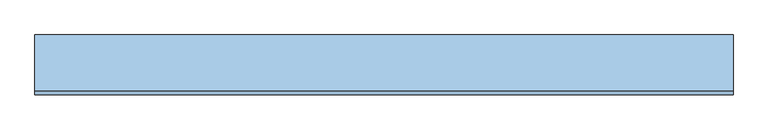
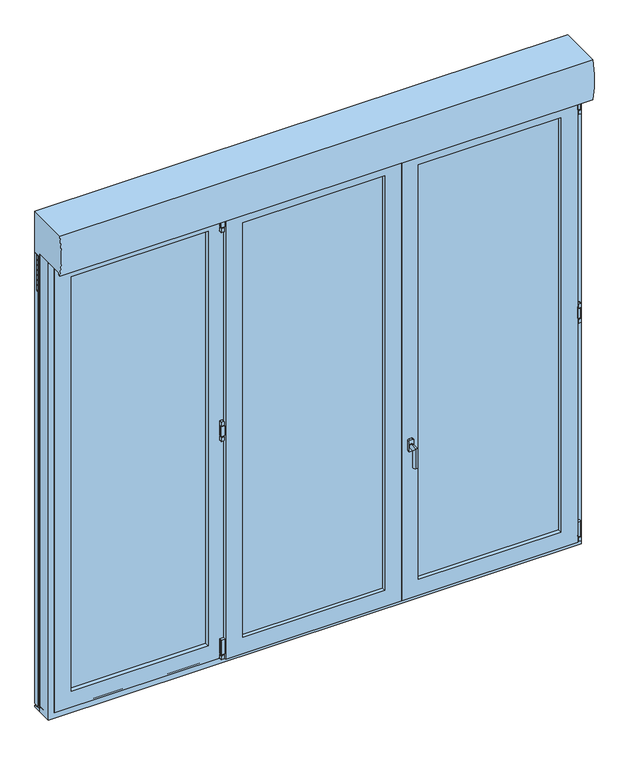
"""IFC4 building model written with IfcOpenShell, lengths in millimetres: window geometry, 24. PF2 + Fixe à G ENR PVC-ALU : PF3 260X236 (LXH) cm + PB."""

from ifc_helpers import new_model, si_unit, point, frame, frame_2d, origin, place, context, project, spatial, polyline, circle_curve, ellipse_curve, trimmed, segment, composite_curve, outline, extrude, faceted_brep, source, transform, mapped, element, save
from ifc_brep_helpers import plane_surface, cylinder_surface, advanced_brep


def window_2f7a2a9f(model_context):
    return source(origin(), model_context, "Body", "SolidModel", [
        extrude(outline(composite_curve([segment(polyline([(1233.7215382, -450.56), (1251.7538628, -450.56)]), True, "CONTINUOUS"), segment(trimmed(circle_curve(frame_2d((1251.7538628, -452.5276754)), 1.9676754), [point((1251.7538628, -450.56))], [point((1253.7215382, -452.5276754))], False, "CARTESIAN"), True, "CONTINUOUS"), segment(polyline([(1253.7215382, -452.5276754), (1253.7215382, -463.5663831)]), True, "CONTINUOUS"), segment(trimmed(circle_curve(frame_2d((1251.7279213, -463.5663831)), 1.9936169), [point((1253.7215382, -463.5663831))], [point((1251.7279213, -465.56))], False, "CARTESIAN"), True, "CONTINUOUS"), segment(polyline([(1251.7279213, -465.56), (1233.7215382, -465.56), (1233.7215382, -450.56)]), True, "CONTINUOUS")], self_intersect=False)), frame((0.0, -115.0338923, 0.0), z_axis=(0.0, 1.0, 0.0), x_axis=(0.0, 0.0, 1.0)), (0.0, 0.0, 1.0), 15.0),
        extrude(outline(composite_curve([segment(trimmed(circle_curve(frame_2d((-458.2805562, -107.5434807)), 5.0), [point((-453.2805562, -107.5434807))], [point((-463.2805562, -107.5434807))], False, "CARTESIAN"), True, "CONTINUOUS"), segment(trimmed(circle_curve(frame_2d((-458.2805562, -107.5434807)), 5.0), [point((-463.2805562, -107.5434807))], [point((-453.2805562, -107.5434807))], False, "CARTESIAN"), True, "CONTINUOUS")], self_intersect=False)), frame((0.0, 0.0, 1173.7215382), z_axis=(0.0, 0.0, 1.0), x_axis=(1.0, 0.0, 0.0)), (0.0, 0.0, 1.0), 60.0),
        extrude(outline(composite_curve([segment(polyline([(-445.56, -100.0434807), (-445.56, -115.0434807), (-463.5418225, -115.0434807)]), True, "CONTINUOUS"), segment(trimmed(circle_curve(frame_2d((-463.5418225, -113.0253033)), 2.0181775), [point((-463.5418225, -115.0434807))], [point((-465.56, -113.0253033))], False, "CARTESIAN"), True, "CONTINUOUS"), segment(polyline([(-465.56, -113.0253033), (-465.56, -102.001657)]), True, "CONTINUOUS"), segment(trimmed(circle_curve(frame_2d((-463.6018237, -102.001657)), 1.9581763), [point((-465.56, -102.001657))], [point((-463.6018237, -100.0434807))], False, "CARTESIAN"), True, "CONTINUOUS"), segment(polyline([(-463.6018237, -100.0434807), (-445.56, -100.0434807)]), True, "CONTINUOUS")], self_intersect=False)), frame((0.0, 0.0, 1179.448), z_axis=(0.0, 0.0, 1.0), x_axis=(1.0, 0.0, 0.0)), (0.0, 0.0, 1.0), 50.0),
        extrude(outline(composite_curve([segment(polyline([(1174.448, -465.7805562), (1156.0982054, -465.7805562)]), True, "CONTINUOUS"), segment(trimmed(circle_curve(frame_2d((1156.4216694, -463.8068867)), 2.0), [point((1156.0982054, -465.7805562))], [point((1154.448, -464.1303507))], False, "CARTESIAN"), True, "CONTINUOUS"), segment(polyline([(1154.448, -464.1303507), (1154.448, -452.7898059)]), True, "CONTINUOUS"), segment(trimmed(circle_curve(frame_2d((1156.4572498, -452.7898059)), 2.0092498), [point((1154.448, -452.7898059))], [point((1156.4572498, -450.7805562))], False, "CARTESIAN"), True, "CONTINUOUS"), segment(polyline([(1156.4572498, -450.7805562), (1174.448, -450.7805562), (1174.448, -465.7805562)]), True, "CONTINUOUS")], self_intersect=False)), frame((0.0, -115.0338923, 0.0), z_axis=(0.0, 1.0, 0.0), x_axis=(0.0, 0.0, 1.0)), (0.0, 0.0, 1.0), 15.0),
        extrude(outline(composite_curve([segment(polyline([(1233.7215382, 1276.56), (1233.7215382, 1291.56), (1251.7279213, 1291.56)]), True, "CONTINUOUS"), segment(trimmed(circle_curve(frame_2d((1251.7279213, 1289.5663831)), 1.9936169), [point((1251.7279213, 1291.56))], [point((1253.7215382, 1289.5663831))], False, "CARTESIAN"), True, "CONTINUOUS"), segment(polyline([(1253.7215382, 1289.5663831), (1253.7215382, 1278.5276754)]), True, "CONTINUOUS"), segment(trimmed(circle_curve(frame_2d((1251.7538628, 1278.5276754)), 1.9676754), [point((1253.7215382, 1278.5276754))], [point((1251.7538628, 1276.56))], False, "CARTESIAN"), True, "CONTINUOUS"), segment(polyline([(1251.7538628, 1276.56), (1233.7215382, 1276.56)]), True, "CONTINUOUS")], self_intersect=False)), frame((0.0, -115.0338923, 0.0), z_axis=(0.0, 1.0, 0.0), x_axis=(0.0, 0.0, 1.0)), (0.0, 0.0, 1.0), 15.0),
        extrude(outline(composite_curve([segment(trimmed(circle_curve(frame_2d((1284.2805562, -107.5434807)), 5.0), [point((1279.2805562, -107.5434807))], [point((1289.2805562, -107.5434807))], False, "CARTESIAN"), True, "CONTINUOUS"), segment(trimmed(circle_curve(frame_2d((1284.2805562, -107.5434807)), 5.0), [point((1289.2805562, -107.5434807))], [point((1279.2805562, -107.5434807))], False, "CARTESIAN"), True, "CONTINUOUS")], self_intersect=False)), frame((0.0, 0.0, 1173.7215382), z_axis=(0.0, 0.0, 1.0), x_axis=(1.0, 0.0, 0.0)), (0.0, 0.0, 1.0), 60.0),
        extrude(outline(composite_curve([segment(polyline([(1271.56, -100.0434807), (1289.6018237, -100.0434807)]), True, "CONTINUOUS"), segment(trimmed(circle_curve(frame_2d((1289.6018237, -102.001657)), 1.9581763), [point((1289.6018237, -100.0434807))], [point((1291.56, -102.001657))], False, "CARTESIAN"), True, "CONTINUOUS"), segment(polyline([(1291.56, -102.001657), (1291.56, -113.0253033)]), True, "CONTINUOUS"), segment(trimmed(circle_curve(frame_2d((1289.5418225, -113.0253033)), 2.0181775), [point((1291.56, -113.0253033))], [point((1289.5418225, -115.0434807))], False, "CARTESIAN"), True, "CONTINUOUS"), segment(polyline([(1289.5418225, -115.0434807), (1271.56, -115.0434807), (1271.56, -100.0434807)]), True, "CONTINUOUS")], self_intersect=False)), frame((0.0, 0.0, 1179.448), z_axis=(0.0, 0.0, 1.0), x_axis=(1.0, 0.0, 0.0)), (0.0, 0.0, 1.0), 50.0),
        extrude(outline(composite_curve([segment(polyline([(1174.448, 1291.7805562), (1174.448, 1276.7805562), (1156.4572498, 1276.7805562)]), True, "CONTINUOUS"), segment(trimmed(circle_curve(frame_2d((1156.4572498, 1278.7898059)), 2.0092498), [point((1156.4572498, 1276.7805562))], [point((1154.448, 1278.7898059))], False, "CARTESIAN"), True, "CONTINUOUS"), segment(polyline([(1154.448, 1278.7898059), (1154.448, 1290.1303507)]), True, "CONTINUOUS"), segment(trimmed(circle_curve(frame_2d((1156.4216694, 1289.8068867)), 2.0), [point((1154.448, 1290.1303507))], [point((1156.0982054, 1291.7805562))], False, "CARTESIAN"), True, "CONTINUOUS"), segment(polyline([(1156.0982054, 1291.7805562), (1174.448, 1291.7805562)]), True, "CONTINUOUS")], self_intersect=False)), frame((0.0, -115.0338923, 0.0), z_axis=(0.0, 1.0, 0.0), x_axis=(0.0, 0.0, 1.0)), (0.0, 0.0, 1.0), 15.0),
        extrude(outline(composite_curve([segment(polyline([(2310.8255382, -450.56), (2328.8578628, -450.56)]), True, "CONTINUOUS"), segment(trimmed(circle_curve(frame_2d((2328.8578628, -452.5276754)), 1.9676754), [point((2328.8578628, -450.56))], [point((2330.8255382, -452.5276754))], False, "CARTESIAN"), True, "CONTINUOUS"), segment(polyline([(2330.8255382, -452.5276754), (2330.8255382, -463.5663831)]), True, "CONTINUOUS"), segment(trimmed(circle_curve(frame_2d((2328.8319213, -463.5663831)), 1.9936169), [point((2330.8255382, -463.5663831))], [point((2328.8319213, -465.56))], False, "CARTESIAN"), True, "CONTINUOUS"), segment(polyline([(2328.8319213, -465.56), (2310.8255382, -465.56), (2310.8255382, -450.56)]), True, "CONTINUOUS")], self_intersect=False)), frame((0.0, -115.0338923, 0.0), z_axis=(0.0, 1.0, 0.0), x_axis=(0.0, 0.0, 1.0)), (0.0, 0.0, 1.0), 15.0),
        extrude(outline(composite_curve([segment(trimmed(circle_curve(frame_2d((-458.2805562, -107.5434807)), 5.0), [point((-453.2805562, -107.5434807))], [point((-463.2805562, -107.5434807))], False, "CARTESIAN"), True, "CONTINUOUS"), segment(trimmed(circle_curve(frame_2d((-458.2805562, -107.5434807)), 5.0), [point((-463.2805562, -107.5434807))], [point((-453.2805562, -107.5434807))], False, "CARTESIAN"), True, "CONTINUOUS")], self_intersect=False)), frame((0.0, 0.0, 2250.8255382), z_axis=(0.0, 0.0, 1.0), x_axis=(1.0, 0.0, 0.0)), (0.0, 0.0, 1.0), 60.0),
        extrude(outline(composite_curve([segment(polyline([(-445.56, -100.0434807), (-445.56, -115.0434807), (-463.5418225, -115.0434807)]), True, "CONTINUOUS"), segment(trimmed(circle_curve(frame_2d((-463.5418225, -113.0253033)), 2.0181775), [point((-463.5418225, -115.0434807))], [point((-465.56, -113.0253033))], False, "CARTESIAN"), True, "CONTINUOUS"), segment(polyline([(-465.56, -113.0253033), (-465.56, -102.001657)]), True, "CONTINUOUS"), segment(trimmed(circle_curve(frame_2d((-463.6018237, -102.001657)), 1.9581763), [point((-465.56, -102.001657))], [point((-463.6018237, -100.0434807))], False, "CARTESIAN"), True, "CONTINUOUS"), segment(polyline([(-463.6018237, -100.0434807), (-445.56, -100.0434807)]), True, "CONTINUOUS")], self_intersect=False)), frame((0.0, 0.0, 2256.552), z_axis=(0.0, 0.0, 1.0), x_axis=(1.0, 0.0, 0.0)), (0.0, 0.0, 1.0), 50.0),
        extrude(outline(composite_curve([segment(polyline([(2251.552, -465.7805562), (2233.2022054, -465.7805562)]), True, "CONTINUOUS"), segment(trimmed(circle_curve(frame_2d((2233.5256694, -463.8068867)), 2.0), [point((2233.2022054, -465.7805562))], [point((2231.552, -464.1303507))], False, "CARTESIAN"), True, "CONTINUOUS"), segment(polyline([(2231.552, -464.1303507), (2231.552, -452.7898059)]), True, "CONTINUOUS"), segment(trimmed(circle_curve(frame_2d((2233.5612498, -452.7898059)), 2.0092498), [point((2231.552, -452.7898059))], [point((2233.5612498, -450.7805562))], False, "CARTESIAN"), True, "CONTINUOUS"), segment(polyline([(2233.5612498, -450.7805562), (2251.552, -450.7805562), (2251.552, -465.7805562)]), True, "CONTINUOUS")], self_intersect=False)), frame((0.0, -115.0338923, 0.0), z_axis=(0.0, 1.0, 0.0), x_axis=(0.0, 0.0, 1.0)), (0.0, 0.0, 1.0), 15.0),
        extrude(outline(composite_curve([segment(trimmed(circle_curve(frame_2d((-458.2805562, -107.5434807)), 5.0), [point((-453.2805562, -107.5434807))], [point((-463.2805562, -107.5434807))], False, "CARTESIAN"), True, "CONTINUOUS"), segment(trimmed(circle_curve(frame_2d((-458.2805562, -107.5434807)), 5.0), [point((-463.2805562, -107.5434807))], [point((-453.2805562, -107.5434807))], False, "CARTESIAN"), True, "CONTINUOUS")], self_intersect=False)), frame((0.0, 0.0, 48.448), z_axis=(0.0, 0.0, 1.0), x_axis=(1.0, 0.0, 0.0)), (0.0, 0.0, 1.0), 5.0),
        extrude(outline(composite_curve([segment(polyline([(48.448, -465.7805562), (30.0982054, -465.7805562)]), True, "CONTINUOUS"), segment(trimmed(circle_curve(frame_2d((30.4216694, -463.8068867)), 2.0), [point((30.0982054, -465.7805562))], [point((28.448, -464.1303507))], False, "CARTESIAN"), True, "CONTINUOUS"), segment(polyline([(28.448, -464.1303507), (28.448, -452.7898059)]), True, "CONTINUOUS"), segment(trimmed(circle_curve(frame_2d((30.4572498, -452.7898059)), 2.0092498), [point((28.448, -452.7898059))], [point((30.4572498, -450.7805562))], False, "CARTESIAN"), True, "CONTINUOUS"), segment(polyline([(30.4572498, -450.7805562), (48.448, -450.7805562), (48.448, -465.7805562)]), True, "CONTINUOUS")], self_intersect=False)), frame((0.0, -115.0338923, 0.0), z_axis=(0.0, 1.0, 0.0), x_axis=(0.0, 0.0, 1.0)), (0.0, 0.0, 1.0), 15.0),
        extrude(outline(composite_curve([segment(polyline([(-445.56, -100.0434807), (-445.56, -115.0434807), (-463.5418225, -115.0434807)]), True, "CONTINUOUS"), segment(trimmed(circle_curve(frame_2d((-463.5418225, -113.0253033)), 2.0181775), [point((-463.5418225, -115.0434807))], [point((-465.56, -113.0253033))], False, "CARTESIAN"), True, "CONTINUOUS"), segment(polyline([(-465.56, -113.0253033), (-465.56, -102.001657)]), True, "CONTINUOUS"), segment(trimmed(circle_curve(frame_2d((-463.6018237, -102.001657)), 1.9581763), [point((-465.56, -102.001657))], [point((-463.6018237, -100.0434807))], False, "CARTESIAN"), True, "CONTINUOUS"), segment(polyline([(-463.6018237, -100.0434807), (-445.56, -100.0434807)]), True, "CONTINUOUS")], self_intersect=False)), frame((0.0, 0.0, 53.448), z_axis=(0.0, 0.0, 1.0), x_axis=(1.0, 0.0, 0.0)), (0.0, 0.0, 1.0), 75.0),
        extrude(outline(composite_curve([segment(polyline([(2310.8255382, 1276.56), (2310.8255382, 1291.56), (2328.8319213, 1291.56)]), True, "CONTINUOUS"), segment(trimmed(circle_curve(frame_2d((2328.8319213, 1289.5663831)), 1.9936169), [point((2328.8319213, 1291.56))], [point((2330.8255382, 1289.5663831))], False, "CARTESIAN"), True, "CONTINUOUS"), segment(polyline([(2330.8255382, 1289.5663831), (2330.8255382, 1278.5276754)]), True, "CONTINUOUS"), segment(trimmed(circle_curve(frame_2d((2328.8578628, 1278.5276754)), 1.9676754), [point((2330.8255382, 1278.5276754))], [point((2328.8578628, 1276.56))], False, "CARTESIAN"), True, "CONTINUOUS"), segment(polyline([(2328.8578628, 1276.56), (2310.8255382, 1276.56)]), True, "CONTINUOUS")], self_intersect=False)), frame((0.0, -115.0338923, 0.0), z_axis=(0.0, 1.0, 0.0), x_axis=(0.0, 0.0, 1.0)), (0.0, 0.0, 1.0), 15.0),
        extrude(outline(composite_curve([segment(trimmed(circle_curve(frame_2d((1284.2805562, -107.5434807)), 5.0), [point((1279.2805562, -107.5434807))], [point((1289.2805562, -107.5434807))], False, "CARTESIAN"), True, "CONTINUOUS"), segment(trimmed(circle_curve(frame_2d((1284.2805562, -107.5434807)), 5.0), [point((1289.2805562, -107.5434807))], [point((1279.2805562, -107.5434807))], False, "CARTESIAN"), True, "CONTINUOUS")], self_intersect=False)), frame((0.0, 0.0, 2250.8255382), z_axis=(0.0, 0.0, 1.0), x_axis=(1.0, 0.0, 0.0)), (0.0, 0.0, 1.0), 60.0),
        extrude(outline(composite_curve([segment(polyline([(1271.56, -100.0434807), (1289.6018237, -100.0434807)]), True, "CONTINUOUS"), segment(trimmed(circle_curve(frame_2d((1289.6018237, -102.001657)), 1.9581763), [point((1289.6018237, -100.0434807))], [point((1291.56, -102.001657))], False, "CARTESIAN"), True, "CONTINUOUS"), segment(polyline([(1291.56, -102.001657), (1291.56, -113.0253033)]), True, "CONTINUOUS"), segment(trimmed(circle_curve(frame_2d((1289.5418225, -113.0253033)), 2.0181775), [point((1291.56, -113.0253033))], [point((1289.5418225, -115.0434807))], False, "CARTESIAN"), True, "CONTINUOUS"), segment(polyline([(1289.5418225, -115.0434807), (1271.56, -115.0434807), (1271.56, -100.0434807)]), True, "CONTINUOUS")], self_intersect=False)), frame((0.0, 0.0, 2256.552), z_axis=(0.0, 0.0, 1.0), x_axis=(1.0, 0.0, 0.0)), (0.0, 0.0, 1.0), 50.0),
        extrude(outline(composite_curve([segment(polyline([(2251.552, 1291.7805562), (2251.552, 1276.7805562), (2233.5612498, 1276.7805562)]), True, "CONTINUOUS"), segment(trimmed(circle_curve(frame_2d((2233.5612498, 1278.7898059)), 2.0092498), [point((2233.5612498, 1276.7805562))], [point((2231.552, 1278.7898059))], False, "CARTESIAN"), True, "CONTINUOUS"), segment(polyline([(2231.552, 1278.7898059), (2231.552, 1290.1303507)]), True, "CONTINUOUS"), segment(trimmed(circle_curve(frame_2d((2233.5256694, 1289.8068867)), 2.0), [point((2231.552, 1290.1303507))], [point((2233.2022054, 1291.7805562))], False, "CARTESIAN"), True, "CONTINUOUS"), segment(polyline([(2233.2022054, 1291.7805562), (2251.552, 1291.7805562)]), True, "CONTINUOUS")], self_intersect=False)), frame((0.0, -115.0338923, 0.0), z_axis=(0.0, 1.0, 0.0), x_axis=(0.0, 0.0, 1.0)), (0.0, 0.0, 1.0), 15.0),
        extrude(outline(composite_curve([segment(trimmed(circle_curve(frame_2d((1284.2805562, -107.5434807)), 5.0), [point((1279.2805562, -107.5434807))], [point((1289.2805562, -107.5434807))], False, "CARTESIAN"), True, "CONTINUOUS"), segment(trimmed(circle_curve(frame_2d((1284.2805562, -107.5434807)), 5.0), [point((1289.2805562, -107.5434807))], [point((1279.2805562, -107.5434807))], False, "CARTESIAN"), True, "CONTINUOUS")], self_intersect=False)), frame((0.0, 0.0, 48.448), z_axis=(0.0, 0.0, 1.0), x_axis=(1.0, 0.0, 0.0)), (0.0, 0.0, 1.0), 5.0),
        extrude(outline(composite_curve([segment(polyline([(48.448, 1291.7805562), (48.448, 1276.7805562), (30.4572498, 1276.7805562)]), True, "CONTINUOUS"), segment(trimmed(circle_curve(frame_2d((30.4572498, 1278.7898059)), 2.0092498), [point((30.4572498, 1276.7805562))], [point((28.448, 1278.7898059))], False, "CARTESIAN"), True, "CONTINUOUS"), segment(polyline([(28.448, 1278.7898059), (28.448, 1290.1303507)]), True, "CONTINUOUS"), segment(trimmed(circle_curve(frame_2d((30.4216694, 1289.8068867)), 2.0), [point((28.448, 1290.1303507))], [point((30.0982054, 1291.7805562))], False, "CARTESIAN"), True, "CONTINUOUS"), segment(polyline([(30.0982054, 1291.7805562), (48.448, 1291.7805562)]), True, "CONTINUOUS")], self_intersect=False)), frame((0.0, -115.0338923, 0.0), z_axis=(0.0, 1.0, 0.0), x_axis=(0.0, 0.0, 1.0)), (0.0, 0.0, 1.0), 15.0),
        extrude(outline(composite_curve([segment(polyline([(1271.56, -100.0434807), (1289.6018237, -100.0434807)]), True, "CONTINUOUS"), segment(trimmed(circle_curve(frame_2d((1289.6018237, -102.001657)), 1.9581763), [point((1289.6018237, -100.0434807))], [point((1291.56, -102.001657))], False, "CARTESIAN"), True, "CONTINUOUS"), segment(polyline([(1291.56, -102.001657), (1291.56, -113.0253033)]), True, "CONTINUOUS"), segment(trimmed(circle_curve(frame_2d((1289.5418225, -113.0253033)), 2.0181775), [point((1291.56, -113.0253033))], [point((1289.5418225, -115.0434807))], False, "CARTESIAN"), True, "CONTINUOUS"), segment(polyline([(1289.5418225, -115.0434807), (1271.56, -115.0434807), (1271.56, -100.0434807)]), True, "CONTINUOUS")], self_intersect=False)), frame((0.0, 0.0, 53.448), z_axis=(0.0, 0.0, 1.0), x_axis=(1.0, 0.0, 0.0)), (0.0, 0.0, 1.0), 75.0),
        advanced_brep(
        [(461.5, -129.3239543, 851.448), (446.5, -129.3239543, 851.448), (441.5, -129.3239543, 846.448), (441.5, -129.3239543, 796.448), (446.5, -129.3239543, 791.448), (461.5, -129.3239543, 791.448), (466.5, -129.3239543, 796.448), (466.5, -129.3239543, 846.448), (454.2771873, -129.3239543, 829.2518349), (454.2771873, -129.3239543, 809.2518349), (461.5, -117.4674689, 851.448), (466.5, -117.4674689, 846.448), (466.5, -117.4674689, 796.448), (461.5, -117.4674689, 791.448), (446.5, -117.4674689, 791.448), (441.5, -117.4674689, 796.448), (441.5, -117.4674689, 846.448), (446.5, -117.4674689, 851.448), (454.2771873, -133.0531938, 809.2518349), (454.2771873, -133.0531938, 829.2518349), (454.2771873, -173.0531938, 829.2518349), (454.2771873, -153.0531938, 809.2518349), (454.2771873, -173.0531938, 729.2518349), (454.2771873, -153.0531938, 729.2518349)],
        [
            (0, 1),
            (1, 2, circle_curve(frame((446.5, -129.3239543, 846.448), z_axis=(0.0, -1.0, 0.0), x_axis=(-1.0, 0.0, 0.0)), 5.0)),
            (2, 3),
            (3, 4, circle_curve(frame((446.5, -129.3239543, 796.448), z_axis=(0.0, -1.0, 0.0), x_axis=(-1.0, 0.0, 0.0)), 5.0)),
            (4, 5),
            (5, 6, circle_curve(frame((461.5, -129.3239543, 796.448), z_axis=(0.0, -1.0, 0.0), x_axis=(-1.0, 0.0, 0.0)), 5.0)),
            (6, 7),
            (7, 0, circle_curve(frame((461.5, -129.3239543, 846.448), z_axis=(0.0, -1.0, 0.0), x_axis=(-1.0, 0.0, 0.0)), 5.0)),
            (8, 9, circle_curve(frame((454.2771873, -129.3239543, 819.2518349), z_axis=(0.0, 1.0, 0.0), x_axis=(0.0, 0.0, -1.0)), 10.0)),
            (9, 8, circle_curve(frame((454.2771873, -129.3239543, 819.2518349), z_axis=(0.0, 1.0, 0.0), x_axis=(0.0, 0.0, -1.0)), 10.0)),
            (10, 11, circle_curve(frame((461.5, -117.4674689, 846.448), z_axis=(0.0, 1.0, 0.0), x_axis=(-1.0, 0.0, 0.0)), 5.0)),
            (11, 12),
            (12, 13, circle_curve(frame((461.5, -117.4674689, 796.448), z_axis=(0.0, 1.0, 0.0), x_axis=(-1.0, 0.0, 0.0)), 5.0)),
            (13, 14),
            (14, 15, circle_curve(frame((446.5, -117.4674689, 796.448), z_axis=(0.0, 1.0, 0.0), x_axis=(-1.0, 0.0, 0.0)), 5.0)),
            (15, 16),
            (16, 17, circle_curve(frame((446.5, -117.4674689, 846.448), z_axis=(0.0, 1.0, 0.0), x_axis=(-1.0, 0.0, 0.0)), 5.0)),
            (17, 10),
            (7, 11),
            (10, 0),
            (6, 12),
            (5, 13),
            (4, 14),
            (3, 15),
            (2, 16),
            (1, 17),
            (18, 19, circle_curve(frame((454.2771873, -133.0531938, 819.2518349), z_axis=(0.0, -1.0, 0.0), x_axis=(0.0, 0.0, -1.0)), 10.0)),
            (19, 20),
            (20, 21, ellipse_curve(frame((454.2771873, -163.0531938, 819.2518349), z_axis=(0.0, 0.7071067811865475, 0.7071067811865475), x_axis=(0.0, 0.7071067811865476, -0.7071067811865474)), 14.1421356, 10.0)),
            (21, 18),
            (19, 18, circle_curve(frame((454.2771873, -133.0531938, 819.2518349), z_axis=(0.0, -1.0, 0.0), x_axis=(0.0, 0.0, -1.0)), 10.0)),
            (21, 20, ellipse_curve(frame((454.2771873, -163.0531938, 819.2518349), z_axis=(0.0, 0.7071067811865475, 0.7071067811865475), x_axis=(0.0, 0.7071067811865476, -0.7071067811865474)), 14.1421356, 10.0)),
            (22, 23, circle_curve(frame((454.2771873, -163.0531938, 729.2518349), z_axis=(0.0, 0.0, -1.0), x_axis=(0.0, 1.0, 0.0)), 10.0)),
            (23, 22, circle_curve(frame((454.2771873, -163.0531938, 729.2518349), z_axis=(0.0, 0.0, -1.0), x_axis=(0.0, 1.0, 0.0)), 10.0)),
            (20, 22),
            (23, 21),
            (18, 9),
            (8, 19),
        ],
        [
            plane_surface(frame((456.5, -129.3239543, 846.448), z_axis=(0.0, -1.0, 0.0), x_axis=(0.0, 0.0, -1.0))),
            plane_surface(frame((456.5, -117.4674689, 846.448), z_axis=(0.0, 1.0, 0.0), x_axis=(0.0, 0.0, 1.0))),
            cylinder_surface(frame((461.5, -129.3239543, 846.448), z_axis=(0.0, 1.0, 0.0), x_axis=(-1.0, 0.0, 0.0)), 5.0),
            plane_surface(frame((466.5, -117.4674689, 846.448), z_axis=(1.0, 0.0, 0.0), x_axis=(0.0, -1.0, 0.0))),
            cylinder_surface(frame((461.5, -129.3239543, 796.448), z_axis=(0.0, 1.0, 0.0), x_axis=(-1.0, 0.0, 0.0)), 5.0),
            plane_surface(frame((461.5, -117.4674689, 791.448), z_axis=(0.0, 0.0, -1.0), x_axis=(0.0, -1.0, 0.0))),
            cylinder_surface(frame((446.5, -129.3239543, 796.448), z_axis=(0.0, 1.0, 0.0), x_axis=(-1.0, 0.0, 0.0)), 5.0),
            plane_surface(frame((441.5, -117.4674689, 796.448), z_axis=(-1.0, 0.0, 0.0), x_axis=(0.0, -1.0, 0.0))),
            cylinder_surface(frame((446.5, -129.3239543, 846.448), z_axis=(0.0, 1.0, 0.0), x_axis=(-1.0, 0.0, 0.0)), 5.0),
            plane_surface(frame((446.5, -117.4674689, 851.448), z_axis=(0.0, 0.0, 1.0), x_axis=(0.0, -1.0, 0.0))),
            cylinder_surface(frame((454.2771873, -133.0531938, 819.2518349), z_axis=(0.0, 1.0, 0.0), x_axis=(0.0, 0.0, -1.0)), 10.0),
            plane_surface(frame((466.5, -163.0531938, 729.2518349), z_axis=(0.0, 0.0, -1.0), x_axis=(1.0, 0.0, 0.0))),
            cylinder_surface(frame((454.2771873, -163.0531938, 819.2518349), z_axis=(0.0, 0.0, 1.0), x_axis=(0.0, 1.0, 0.0)), 10.0),
            cylinder_surface(frame((454.2771873, -129.3239543, 819.2518349), z_axis=(0.0, 1.0, 0.0), x_axis=(0.0, 0.0, -1.0)), 10.0),
        ],
        [
            (0, [[1, 2, 3, 4, 5, 6, 7, 8], [9, 10]]),
            (1, [[11, 12, 13, 14, 15, 16, 17, 18]]),
            (2, [[-8, 19, -11, 20]]),
            (3, [[-7, 21, -12, -19]]),
            (4, [[-6, 22, -13, -21]]),
            (5, [[-5, 23, -14, -22]]),
            (6, [[-4, 24, -15, -23]]),
            (7, [[-3, 25, -16, -24]]),
            (8, [[-2, 26, -17, -25]]),
            (9, [[-1, -20, -18, -26]]),
            (10, [[27, 28, 29, 30]]),
            (10, [[-28, 31, -30, 32]]),
            (11, [[33, 34]]),
            (12, [[-29, 35, -34, 36]]),
            (12, [[-32, -36, -33, -35]]),
            (13, [[-27, 37, -9, 38]]),
            (13, [[-31, -38, -10, -37]]),
        ],
    ),
        faceted_brep([(-1300.0, -100.02, 2360.0), (-1300.0, -28.9, 2360.0), (-1300.0, -28.9, 0.0), (-1300.0, -100.02, 0.0), (1300.0, -28.9, 2360.0), (1300.0, -28.9, 0.0), (-1242.0983858, -28.9, 57.9016142), (1242.0983858, -28.9, 57.9016142), (1242.0983858, -28.9, 2302.0983858), (-1242.0983858, -28.9, 2302.0983858), (1300.0, -100.02, 0.0), (1300.0, -100.02, 2360.0), (-1263.424, -100.02, 2323.424), (1263.424, -100.02, 2323.424), (1263.424, -100.02, 36.576), (-1263.424, -100.02, 36.576), (-1263.424, -44.648, 2323.424), (-1263.424, -44.648, 36.576), (1263.424, -44.648, 36.576), (1263.424, -44.648, 2323.424), (-1242.0983858, -44.648, 2302.0983858), (1242.0983858, -44.648, 2302.0983858), (1242.0983858, -44.648, 57.9016142), (-1242.0983858, -44.648, 57.9016142)], [[[0, 1, 2, 3]], [[1, 4, 5, 2], [6, 7, 8, 9]], [[3, 2, 5, 10]], [[3, 10, 11, 0], [12, 13, 14, 15]], [[16, 12, 15, 17]], [[17, 15, 14, 18]], [[17, 18, 19, 16], [20, 21, 22, 23]], [[9, 20, 23, 6]], [[6, 23, 22, 7]], [[10, 5, 4, 11]], [[18, 14, 13, 19]], [[7, 22, 21, 8]], [[11, 4, 1, 0]], [[19, 13, 12, 16]], [[8, 21, 20, 9]]]),
        extrude(outline(polyline([(392.68, -100.0434807), (392.68, -44.648), (377.9954701, -44.648), (377.9954701, -28.7475756), (447.9965299, -28.7475756), (447.9965299, -44.648), (433.32, -44.648), (433.32, -100.0434807), (392.68, -100.0434807)])), frame((0.0, 0.0, 57.9016142), z_axis=(0.0, 0.0, 1.0), x_axis=(1.0, 0.0, 0.0)), (0.0, 0.0, 1.0), 2244.1),
        extrude(outline(polyline([(-410.5594701, -28.9), (-410.5594701, -44.648), (-425.24, -44.648), (-425.24, -100.0), (-437.432, -100.0), (-437.432, -44.648), (-466.8856142, -44.648), (-466.8856142, -28.9), (-410.5594701, -28.9)])), frame((0.0, 0.0, 57.9016142), z_axis=(0.0, 0.0, 1.0), x_axis=(1.0, 0.0, 0.0)), (0.0, 0.0, 1.0), 2244.1),
        faceted_brep([(-466.8856142, -28.9, 2302.0983858), (-466.8856142, -44.648, 2302.0983858), (-466.8856142, -44.648, 57.9016142), (-466.8856142, -28.9, 57.9016142), (-437.432, -44.648, 28.448), (-1271.56, -44.648, 28.448), (-1271.56, -44.648, 2331.552), (-437.432, -44.648, 2331.552), (-1242.1063858, -44.648, 2302.0983858), (-1242.1063858, -44.648, 57.9016142), (-1242.1063858, -28.9, 57.9016142), (-1242.1063858, -28.9, 2302.0983858), (-519.4599508, -28.9, 2249.5240492), (-1189.5320492, -28.9, 2249.5240492), (-1189.5320492, -28.9, 110.4759508), (-519.4599508, -28.9, 110.4759508), (-1189.5320492, -50.2048765, 110.4759508), (-1189.5320492, -50.2048765, 2249.5240492), (-519.4599508, -50.2048765, 110.4759508), (-519.4599508, -50.2048765, 2249.5240492), (-437.432, -100.963906, 28.448), (-1271.56, -100.963906, 28.448), (-1271.56, -100.963906, 2331.552), (-437.432, -100.963906, 2331.552), (-519.4599508, -100.963906, 110.4759508), (-1189.5320492, -100.963906, 110.4759508), (-1189.5320492, -100.963906, 2249.5240492), (-519.4599508, -100.963906, 2249.5240492), (-519.4599508, -78.213906, 110.4759508), (-1189.5320492, -78.213906, 110.4759508), (-1189.5320492, -78.213906, 2249.5240492), (-519.4599508, -78.213906, 2249.5240492), (-505.5664883, -50.2048765, 2263.4175117), (-1203.4255117, -50.2048765, 2263.4175117), (-1203.4255117, -50.2048765, 96.5824883), (-505.5664883, -50.2048765, 96.5824883), (-505.5664883, -54.213906, 2263.4175117), (-505.5664883, -54.213906, 96.5824883), (-1203.4255117, -54.213906, 96.5824883), (-1203.4255117, -54.213906, 2263.4175117), (-519.4599508, -54.213906, 2249.5240492), (-1189.5320492, -54.213906, 2249.5240492), (-1189.5320492, -54.213906, 110.4759508), (-519.4599508, -54.213906, 110.4759508), (-505.5664883, -78.213906, 2263.4175117), (-505.5664883, -74.213906, 2263.4175117), (-505.5664883, -74.213906, 96.5824883), (-505.5664883, -78.213906, 96.5824883), (-1203.4255117, -74.213906, 2263.4175117), (-1203.4255117, -74.213906, 96.5824883), (-519.4599508, -74.213906, 110.4759508), (-1189.5320492, -74.213906, 110.4759508), (-1189.5320492, -74.213906, 2249.5240492), (-519.4599508, -74.213906, 2249.5240492), (-1203.4255117, -78.213906, 96.5824883), (-1203.4255117, -78.213906, 2263.4175117)], [[[0, 1, 2, 3]], [[4, 5, 6, 7], [1, 8, 9, 2]], [[3, 2, 9, 10]], [[3, 10, 11, 0], [12, 13, 14, 15]], [[10, 9, 8, 11]], [[16, 14, 13, 17]], [[18, 15, 14, 16]], [[19, 12, 15, 18]], [[4, 20, 21, 5]], [[5, 21, 22, 6]], [[23, 20, 4, 7]], [[23, 22, 21, 20], [24, 25, 26, 27]], [[24, 28, 29, 25]], [[25, 29, 30, 26]], [[27, 31, 28, 24]], [[32, 33, 34, 35], [18, 16, 17, 19]], [[36, 32, 35, 37]], [[37, 35, 34, 38]], [[37, 38, 39, 36], [40, 41, 42, 43]], [[44, 45, 46, 47]], [[45, 48, 49, 46], [50, 51, 52, 53]], [[47, 46, 49, 54]], [[47, 54, 55, 44], [31, 30, 29, 28]], [[38, 34, 33, 39]], [[54, 49, 48, 55]], [[51, 42, 41, 52]], [[50, 43, 42, 51]], [[53, 40, 43, 50]], [[11, 8, 1, 0]], [[6, 22, 23, 7]], [[17, 13, 12, 19]], [[39, 33, 32, 36]], [[55, 48, 45, 44]], [[52, 41, 40, 53]], [[26, 30, 31, 27]]]),
        faceted_brep([(413.0, -100.0434807, 28.448), (413.0, -119.3239543, 28.448), (-445.56, -119.3239543, 28.448), (-445.56, -100.0434807, 28.448), (-445.56, -119.3239543, 2331.552), (-445.56, -100.0434807, 2331.552), (413.0, -119.3239543, 2331.552), (-363.3585043, -119.3239543, 2249.3505043), (330.7985043, -119.3239543, 2249.3505043), (330.7985043, -119.3239543, 110.6494957), (-363.3585043, -119.3239543, 110.6494957), (413.0, -100.0434807, 2331.552), (-425.24, -100.0434807, 48.768), (392.68, -100.0434807, 48.768), (392.68, -100.0434807, 2311.232), (-425.24, -100.0434807, 2311.232), (330.7985043, -100.019954, 110.6494957), (-363.3585043, -100.019954, 110.6494957), (-363.3585043, -100.019954, 2249.3505043), (-385.6166701, -100.019954, 2271.6086701), (353.0566701, -100.019954, 2271.6086701), (353.0566701, -100.019954, 88.3913299), (-385.6166701, -100.019954, 88.3913299), (330.7985043, -100.019954, 2249.3505043), (353.0566701, -48.2039543, 88.3913299), (-385.6166701, -48.2039543, 88.3913299), (-385.6166701, -48.2039543, 2271.6086701), (-416.1063858, -48.2039543, 2302.0983858), (383.5463858, -48.2039543, 2302.0983858), (383.5463858, -48.2039543, 57.9016142), (-416.1063858, -48.2039543, 57.9016142), (353.0566701, -48.2039543, 2271.6086701), (383.5463858, -44.648, 57.9016142), (-416.1063858, -44.648, 57.9016142), (-416.1063858, -44.648, 2302.0983858), (-425.24, -44.648, 2311.232), (392.68, -44.648, 2311.232), (392.68, -44.648, 48.768), (-425.24, -44.648, 48.768), (383.5463858, -44.648, 2302.0983858)], [[[0, 1, 2, 3]], [[3, 2, 4, 5]], [[2, 1, 6, 4], [7, 8, 9, 10]], [[5, 11, 0, 3], [12, 13, 14, 15]], [[9, 16, 17, 10]], [[10, 17, 18, 7]], [[19, 20, 21, 22], [17, 16, 23, 18]], [[21, 24, 25, 22]], [[22, 25, 26, 19]], [[27, 28, 29, 30], [25, 24, 31, 26]], [[29, 32, 33, 30]], [[30, 33, 34, 27]], [[35, 36, 37, 38], [33, 32, 39, 34]], [[37, 13, 12, 38]], [[38, 12, 15, 35]], [[11, 6, 1, 0]], [[8, 23, 16, 9]], [[20, 31, 24, 21]], [[28, 39, 32, 29]], [[36, 14, 13, 37]], [[5, 4, 6, 11]], [[27, 34, 39, 28]], [[35, 15, 14, 36]], [[7, 18, 23, 8]], [[19, 26, 31, 20]]]),
        faceted_brep([(413.0, -119.3239543, 28.448), (413.0, -100.0434807, 28.448), (1271.56, -100.0434807, 28.448), (1271.56, -119.3239543, 28.448), (1271.56, -100.0434807, 2331.552), (1271.56, -119.3239543, 2331.552), (413.0, -100.0434807, 2331.552), (1251.24, -100.0434807, 2311.232), (433.32, -100.0434807, 2311.232), (433.32, -100.0434807, 48.768), (1251.24, -100.0434807, 48.768), (413.0, -119.3239543, 2331.552), (1189.3585043, -119.3239543, 110.6494957), (495.2014957, -119.3239543, 110.6494957), (495.2014957, -119.3239543, 2249.3505043), (1189.3585043, -119.3239543, 2249.3505043), (495.2014957, -100.019954, 110.6494957), (1189.3585043, -100.019954, 110.6494957), (1189.3585043, -100.019954, 2249.3505043), (1211.6166701, -100.019954, 88.3913299), (472.9433299, -100.019954, 88.3913299), (472.9433299, -100.019954, 2271.6086701), (1211.6166701, -100.019954, 2271.6086701), (495.2014957, -100.019954, 2249.3505043), (472.9433299, -48.2039543, 88.3913299), (1211.6166701, -48.2039543, 88.3913299), (1211.6166701, -48.2039543, 2271.6086701), (1242.1063858, -48.2039543, 57.9016142), (442.4536142, -48.2039543, 57.9016142), (442.4536142, -48.2039543, 2302.0983858), (1242.1063858, -48.2039543, 2302.0983858), (472.9433299, -48.2039543, 2271.6086701), (442.4536142, -44.648, 57.9016142), (1242.1063858, -44.648, 57.9016142), (1242.1063858, -44.648, 2302.0983858), (1251.24, -44.648, 48.768), (433.32, -44.648, 48.768), (433.32, -44.648, 2311.232), (1251.24, -44.648, 2311.232), (442.4536142, -44.648, 2302.0983858)], [[[0, 1, 2, 3]], [[3, 2, 4, 5]], [[2, 1, 6, 4], [7, 8, 9, 10]], [[5, 11, 0, 3], [12, 13, 14, 15]], [[16, 13, 12, 17]], [[17, 12, 15, 18]], [[19, 20, 21, 22], [18, 23, 16, 17]], [[24, 20, 19, 25]], [[25, 19, 22, 26]], [[27, 28, 29, 30], [26, 31, 24, 25]], [[32, 28, 27, 33]], [[33, 27, 30, 34]], [[35, 36, 37, 38], [34, 39, 32, 33]], [[9, 36, 35, 10]], [[10, 35, 38, 7]], [[11, 6, 1, 0]], [[23, 14, 13, 16]], [[31, 21, 20, 24]], [[39, 29, 28, 32]], [[8, 37, 36, 9]], [[5, 4, 6, 11]], [[34, 30, 29, 39]], [[7, 38, 37, 8]], [[18, 15, 14, 23]], [[26, 22, 21, 31]]]),
        extrude(outline(polyline([(-377.4, -100.019954), (-377.4, -96.019954), (344.9, -96.019954), (344.9, -100.019954), (-377.4, -100.019954)])), frame((0.0, 0.0, 96.5824883), z_axis=(0.0, 0.0, 1.0), x_axis=(1.0, 0.0, 0.0)), (0.0, 0.0, 1.0), 2166.8350233),
        extrude(outline(polyline([(-377.4, -72.9786213), (-377.4, -68.9786213), (344.9, -68.9786213), (344.9, -72.9786213), (-377.4, -72.9786213)])), frame((0.0, 0.0, 96.5824883), z_axis=(0.0, 0.0, 1.0), x_axis=(1.0, 0.0, 0.0)), (0.0, 0.0, 1.0), 2166.8350233),
        extrude(outline(polyline([(-377.4, -45.9821328), (-377.4, -42.025765), (344.9, -42.025765), (344.9, -45.9821328), (-377.4, -45.9821328)])), frame((0.0, 0.0, 96.5824883), z_axis=(0.0, 0.0, 1.0), x_axis=(1.0, 0.0, 0.0)), (0.0, 0.0, 1.0), 2166.8350233),
        faceted_brep([(-385.6086701, -100.019954, 2271.6086701), (-385.6086701, -48.2039543, 2271.6086701), (-385.6086701, -48.2039543, 88.3913299), (-385.6086701, -100.019954, 88.3913299), (-410.5514701, -48.2039543, 2296.5514701), (-410.5514701, -48.2039543, 63.4485299), (378.0034701, -48.2039543, 63.4485299), (378.0034701, -48.2039543, 2296.5514701), (353.0606701, -48.2039543, 2271.6086701), (353.0606701, -48.2039543, 88.3913299), (353.0606701, -100.019954, 88.3913299), (353.0606701, -100.019954, 2271.6086701), (344.8695117, -100.019954, 2263.4175117), (344.8695117, -100.019954, 96.5824883), (-377.4175117, -100.019954, 96.5824883), (-377.4175117, -100.019954, 2263.4175117), (-410.5514701, -28.7475756, 2296.5514701), (-410.5514701, -28.7475756, 63.4485299), (378.0034701, -28.7475756, 2296.5514701), (378.0034701, -28.7475756, 63.4485299), (-359.3393386, -28.7475756, 2245.3393386), (-359.3393386, -28.7475756, 114.6606614), (326.7913386, -28.7475756, 114.6606614), (326.7913386, -28.7475756, 2245.3393386), (-359.3393386, -41.5821328, 2245.3393386), (-359.3393386, -41.5821328, 114.6606614), (-377.4175117, -41.5821328, 2263.4175117), (-377.4175117, -41.5821328, 96.5824883), (344.8695117, -41.5821328, 96.5824883), (344.8695117, -41.5821328, 2263.4175117), (326.7913386, -41.5821328, 2245.3393386), (326.7913386, -41.5821328, 114.6606614), (-360.1974041, -47.5821328, 2246.1974041), (-360.1974041, -68.9786213, 2246.1974041), (-360.1974041, -68.9786213, 113.8025959), (-360.1974041, -47.5821328, 113.8025959), (-377.4175117, -68.9786213, 2263.4175117), (-377.4175117, -68.9786213, 96.5824883), (344.8695117, -68.9786213, 96.5824883), (344.8695117, -68.9786213, 2263.4175117), (327.6494041, -68.9786213, 2246.1974041), (327.6494041, -68.9786213, 113.8025959), (327.6494041, -47.5821328, 113.8025959), (344.8695117, -47.5821328, 2263.4175117), (344.8695117, -47.5821328, 96.5824883), (-377.4175117, -47.5821328, 96.5824883), (-377.4175117, -47.5821328, 2263.4175117), (327.6494041, -47.5821328, 2246.1974041), (-363.5240492, -72.9786213, 2249.5240492), (-363.5240492, -96.019954, 2249.5240492), (-363.5240492, -96.019954, 110.4759508), (-363.5240492, -72.9786213, 110.4759508), (-377.4175117, -96.019954, 2263.4175117), (-377.4175117, -96.019954, 96.5824883), (344.8695117, -96.019954, 96.5824883), (344.8695117, -96.019954, 2263.4175117), (330.9760492, -96.019954, 2249.5240492), (330.9760492, -96.019954, 110.4759508), (330.9760492, -72.9786213, 110.4759508), (344.8695117, -72.9786213, 2263.4175117), (344.8695117, -72.9786213, 96.5824883), (-377.4175117, -72.9786213, 96.5824883), (-377.4175117, -72.9786213, 2263.4175117), (330.9760492, -72.9786213, 2249.5240492)], [[[0, 1, 2, 3]], [[4, 5, 6, 7], [8, 9, 2, 1]], [[3, 2, 9, 10]], [[0, 3, 10, 11], [12, 13, 14, 15]], [[4, 16, 17, 5]], [[18, 19, 17, 16], [20, 21, 22, 23]], [[5, 17, 19, 6]], [[20, 24, 25, 21]], [[26, 27, 28, 29], [30, 31, 25, 24]], [[21, 25, 31, 22]], [[32, 33, 34, 35]], [[36, 37, 38, 39], [40, 41, 34, 33]], [[35, 34, 41, 42]], [[43, 44, 45, 46], [32, 35, 42, 47]], [[48, 49, 50, 51]], [[52, 53, 54, 55], [56, 57, 50, 49]], [[51, 50, 57, 58]], [[59, 60, 61, 62], [48, 51, 58, 63]], [[52, 15, 14, 53]], [[53, 14, 13, 54]], [[26, 46, 45, 27]], [[27, 45, 44, 28]], [[36, 62, 61, 37]], [[37, 61, 60, 38]], [[58, 57, 56, 63]], [[54, 13, 12, 55]], [[10, 9, 8, 11]], [[6, 19, 18, 7]], [[22, 31, 30, 23]], [[28, 44, 43, 29]], [[42, 41, 40, 47]], [[38, 60, 59, 39]], [[11, 8, 1, 0]], [[7, 18, 16, 4]], [[23, 30, 24, 20]], [[47, 40, 33, 32]], [[63, 56, 49, 48]], [[55, 12, 15, 52]], [[29, 43, 46, 26]], [[39, 59, 62, 36]]]),
        extrude(outline(polyline([(-1203.4, -54.213906), (-1203.4, -50.2048765), (-505.5, -50.2048765), (-505.5, -54.213906), (-1203.4, -54.213906)])), frame((0.0, 0.0, 96.5824883), z_axis=(0.0, 0.0, 1.0), x_axis=(1.0, 0.0, 0.0)), (0.0, 0.0, 1.0), 2166.8350233),
        extrude(outline(polyline([(-1203.4, -78.2229356), (-1203.4, -74.213906), (-505.5, -74.213906), (-505.5, -78.2229356), (-1203.4, -78.2229356)])), frame((0.0, 0.0, 96.5824883), z_axis=(0.0, 0.0, 1.0), x_axis=(1.0, 0.0, 0.0)), (0.0, 0.0, 1.0), 2166.8350233),
        extrude(outline(polyline([(1203.4, -42.025765), (1203.4, -45.9821328), (481.1, -45.9821328), (481.1, -42.025765), (1203.4, -42.025765)])), frame((0.0, 0.0, 96.5824883), z_axis=(0.0, 0.0, 1.0), x_axis=(1.0, 0.0, 0.0)), (0.0, 0.0, 1.0), 2166.8350233),
        extrude(outline(polyline([(1203.4, -96.019954), (1203.4, -100.019954), (481.1, -100.019954), (481.1, -96.019954), (1203.4, -96.019954)])), frame((0.0, 0.0, 96.5824883), z_axis=(0.0, 0.0, 1.0), x_axis=(1.0, 0.0, 0.0)), (0.0, 0.0, 1.0), 2166.8350233),
        extrude(outline(polyline([(1203.4, -68.9786213), (1203.4, -72.9786213), (481.1, -72.9786213), (481.1, -68.9786213), (1203.4, -68.9786213)])), frame((0.0, 0.0, 96.5824883), z_axis=(0.0, 0.0, 1.0), x_axis=(1.0, 0.0, 0.0)), (0.0, 0.0, 1.0), 2166.8350233),
        faceted_brep([(1211.6086701, -48.2039543, 2271.6086701), (1211.6086701, -100.019954, 2271.6086701), (1211.6086701, -100.019954, 88.3913299), (1211.6086701, -48.2039543, 88.3913299), (472.9393299, -100.019954, 2271.6086701), (472.9393299, -100.019954, 88.3913299), (1203.4175117, -100.019954, 2263.4175117), (1203.4175117, -100.019954, 96.5824883), (481.1304883, -100.019954, 96.5824883), (481.1304883, -100.019954, 2263.4175117), (472.9393299, -48.2039543, 88.3913299), (447.9965299, -48.2039543, 2296.5514701), (447.9965299, -48.2039543, 63.4485299), (1236.5514701, -48.2039543, 63.4485299), (1236.5514701, -48.2039543, 2296.5514701), (472.9393299, -48.2039543, 2271.6086701), (1236.5514701, -28.7475756, 2296.5514701), (1236.5514701, -28.7475756, 63.4485299), (447.9965299, -28.7475756, 63.4485299), (447.9965299, -28.7475756, 2296.5514701), (499.2086614, -28.7475756, 2245.3393386), (499.2086614, -28.7475756, 114.6606614), (1185.3393386, -28.7475756, 114.6606614), (1185.3393386, -28.7475756, 2245.3393386), (1185.3393386, -41.5821328, 2245.3393386), (1185.3393386, -41.5821328, 114.6606614), (499.2086614, -41.5821328, 114.6606614), (481.1304883, -41.5821328, 2263.4175117), (481.1304883, -41.5821328, 96.5824883), (1203.4175117, -41.5821328, 96.5824883), (1203.4175117, -41.5821328, 2263.4175117), (499.2086614, -41.5821328, 2245.3393386), (1186.1974041, -68.9786213, 2246.1974041), (1186.1974041, -47.5821328, 2246.1974041), (1186.1974041, -47.5821328, 113.8025959), (1186.1974041, -68.9786213, 113.8025959), (1203.4175117, -47.5821328, 2263.4175117), (1203.4175117, -47.5821328, 96.5824883), (481.1304883, -47.5821328, 96.5824883), (481.1304883, -47.5821328, 2263.4175117), (498.3505959, -47.5821328, 2246.1974041), (498.3505959, -47.5821328, 113.8025959), (498.3505959, -68.9786213, 113.8025959), (481.1304883, -68.9786213, 2263.4175117), (481.1304883, -68.9786213, 96.5824883), (1203.4175117, -68.9786213, 96.5824883), (1203.4175117, -68.9786213, 2263.4175117), (498.3505959, -68.9786213, 2246.1974041), (1189.5240492, -96.019954, 2249.5240492), (1189.5240492, -72.9786213, 2249.5240492), (1189.5240492, -72.9786213, 110.4759508), (1189.5240492, -96.019954, 110.4759508), (1203.4175117, -72.9786213, 2263.4175117), (1203.4175117, -72.9786213, 96.5824883), (481.1304883, -72.9786213, 96.5824883), (481.1304883, -72.9786213, 2263.4175117), (495.0239508, -72.9786213, 2249.5240492), (495.0239508, -72.9786213, 110.4759508), (495.0239508, -96.019954, 110.4759508), (481.1304883, -96.019954, 2263.4175117), (481.1304883, -96.019954, 96.5824883), (1203.4175117, -96.019954, 96.5824883), (1203.4175117, -96.019954, 2263.4175117), (495.0239508, -96.019954, 2249.5240492)], [[[0, 1, 2, 3]], [[4, 5, 2, 1], [6, 7, 8, 9]], [[3, 2, 5, 10]], [[11, 12, 13, 14], [0, 3, 10, 15]], [[16, 14, 13, 17]], [[17, 13, 12, 18]], [[16, 17, 18, 19], [20, 21, 22, 23]], [[24, 23, 22, 25]], [[25, 22, 21, 26]], [[27, 28, 29, 30], [24, 25, 26, 31]], [[32, 33, 34, 35]], [[36, 37, 38, 39], [40, 41, 34, 33]], [[35, 34, 41, 42]], [[43, 44, 45, 46], [32, 35, 42, 47]], [[48, 49, 50, 51]], [[52, 53, 54, 55], [56, 57, 50, 49]], [[51, 50, 57, 58]], [[59, 60, 61, 62], [48, 51, 58, 63]], [[6, 62, 61, 7]], [[7, 61, 60, 8]], [[36, 30, 29, 37]], [[37, 29, 28, 38]], [[52, 46, 45, 53]], [[53, 45, 44, 54]], [[58, 57, 56, 63]], [[8, 60, 59, 9]], [[10, 5, 4, 15]], [[18, 12, 11, 19]], [[26, 21, 20, 31]], [[38, 28, 27, 39]], [[42, 41, 40, 47]], [[54, 44, 43, 55]], [[15, 4, 1, 0]], [[19, 11, 14, 16]], [[31, 20, 23, 24]], [[47, 40, 33, 32]], [[63, 56, 49, 48]], [[9, 59, 62, 6]], [[39, 27, 30, 36]], [[55, 43, 46, 52]]]),
        extrude(outline(composite_curve([segment(polyline([(-186.3991192, 2350.3409737), (-197.3316724, 2350.3409737)]), True, "CONTINUOUS"), segment(trimmed(circle_curve(frame_2d((189.1050523, 2453.6204869)), 400.0), [point((-197.3316724, 2350.3409737))], [point((-197.3316724, 2556.9))], False, "CARTESIAN"), True, "CONTINUOUS"), segment(polyline([(-197.3316724, 2556.9), (13.0999994, 2556.9), (13.0999994, 2346.0216226), (-4.9499979, 2346.0216226), (-4.9499979, 2344.2216225), (-2.7215215, 2344.2216225), (-2.7215215, 2319.9791617), (-4.9499979, 2319.9791617), (-4.9499979, 2318.1791616), (-2.7215215, 2318.1791616), (-2.7215215, 2293.9367008), (-4.9499979, 2293.9367008), (-4.9499979, 2292.1367006), (-2.7215215, 2292.1367006), (-2.7215215, 2267.8942398), (-4.9499979, 2267.8942398), (-4.9499979, 2266.0942397), (-2.7215215, 2266.0942397), (-2.7215215, 2241.8517789), (-4.9499979, 2241.8517789), (-4.9499979, 2240.0517788), (-2.7215215, 2240.0517788), (-2.7215215, 2215.809318), (-4.9499979, 2215.809318), (-4.9499979, 2214.0093179), (-2.7215215, 2214.0093179), (-2.7215215, 2189.7668571), (-4.9499979, 2189.7668571), (-4.9499979, 2187.966857), (-2.7215215, 2187.966857), (-2.7215215, 2163.7243961), (-4.9499979, 2163.7243961), (-4.9499979, 2161.9243963), (-3.044091, 2161.9243963), (-3.044091, 2158.977424), (-6.4, 2155.6232688), (-9.8999992, 2158.9774251), (-9.8999992, 2161.9243963), (-7.7499979, 2161.9243963), (-7.7499979, 2163.7243961), (-9.9999979, 2163.7243961), (-9.9999979, 2187.9668572), (-7.7499979, 2187.9668572), (-7.7499979, 2189.7668571), (-9.9999979, 2189.7668571), (-9.9999979, 2214.0093181), (-7.7499979, 2214.0093181), (-7.7499979, 2215.809318), (-9.9999979, 2215.809318), (-9.9999979, 2240.051779), (-7.7499979, 2240.051779), (-7.7499979, 2241.8517789), (-9.9999979, 2241.8517789), (-9.9999979, 2266.09424), (-7.7499979, 2266.09424), (-7.7499979, 2267.8942398), (-9.9999979, 2267.8942398), (-9.9999979, 2292.1367009), (-7.7499979, 2292.1367009), (-7.7499979, 2293.9367008), (-9.9999979, 2293.9367008), (-9.9999979, 2318.1791618), (-7.7499979, 2318.1791618), (-7.7499979, 2319.9791617), (-9.9999979, 2319.9791617), (-9.9999979, 2344.2216227), (-7.7499979, 2344.2216227), (-7.7499979, 2346.0216226), (-28.9, 2346.0216226), (-28.9, 2360.0), (-186.3991192, 2360.0), (-186.3991192, 2350.3409737)]), True, "CONTINUOUS")], self_intersect=False)), frame((-1300.0, 0.0, 0.0), z_axis=(1.0, 0.0, 0.0), x_axis=(0.0, 1.0, 0.0)), (0.0, 0.0, 1.0), 2600.0),
        extrude(outline(polyline([(13.1, 0.0), (-100.02, 0.0), (-100.02, 30.0), (-28.9, 30.0), (-28.9, 20.0), (13.1, 10.0), (13.1, 0.0)])), frame((-1300.0, 0.0, 0.0), z_axis=(1.0, 0.0, 0.0), x_axis=(0.0, 1.0, 0.0)), (0.0, 0.0, 1.0), 2600.0),
        extrude(outline(polyline([(1299.0, 13.1), (1300.0, 13.1), (1300.0, -28.9), (1299.0, -28.9), (1299.0, -14.9), (1279.0, -14.9), (1279.0, -11.9), (1299.0, -11.9), (1299.0, -0.9), (1279.0, -0.9), (1279.0, 2.1), (1299.0, 2.1), (1299.0, 13.1)])), frame((0.0, 0.0, 20.0), z_axis=(0.0, 0.0, 1.0), x_axis=(1.0, 0.0, 0.0)), (0.0, 0.0, 1.0), 2326.0216226),
        extrude(outline(polyline([(-1299.0, 13.1), (-1299.0, 2.1), (-1279.0, 2.1), (-1279.0, -0.9), (-1299.0, -0.9), (-1299.0, -11.9), (-1279.0, -11.9), (-1279.0, -14.9), (-1299.0, -14.9), (-1299.0, -28.9), (-1300.0, -28.9), (-1300.0, 13.1), (-1299.0, 13.1)])), frame((0.0, 0.0, 20.0), z_axis=(0.0, 0.0, 1.0), x_axis=(1.0, 0.0, 0.0)), (0.0, 0.0, 1.0), 2326.0216226),
    ])


if __name__ == "__main__":
    model = new_model("IFC4")
    model_context = context("Model", 3, world=origin())
    ifc_project = project(units=[si_unit("LENGTHUNIT", "METRE", prefix="MILLI")], contexts=[model_context])
    site = spatial("IfcSite", under=ifc_project)
    building = spatial("IfcBuilding", under=site)
    placement = place(None, origin())
    window_shape = window_2f7a2a9f(model_context)
    element("IfcWindow", 1, ObjectType="24. PF2 + Fixe à G ENR PVC-ALU : PF3 260X236 (LXH) cm + PB", at=placement, inside=building, context=model_context, shape_type="MappedRepresentation", body=[
        mapped(window_shape, transform((0.0, 0.0, 0.0), x_axis=(1.0, 0.0, 0.0), y_axis=(0.0, 1.0, 0.0), z_axis=(0.0, 0.0, 1.0))),
    ])
    save(model, "model.ifc")
